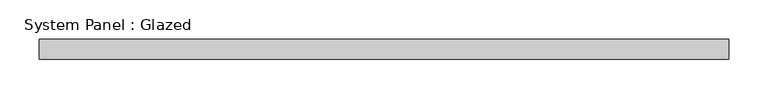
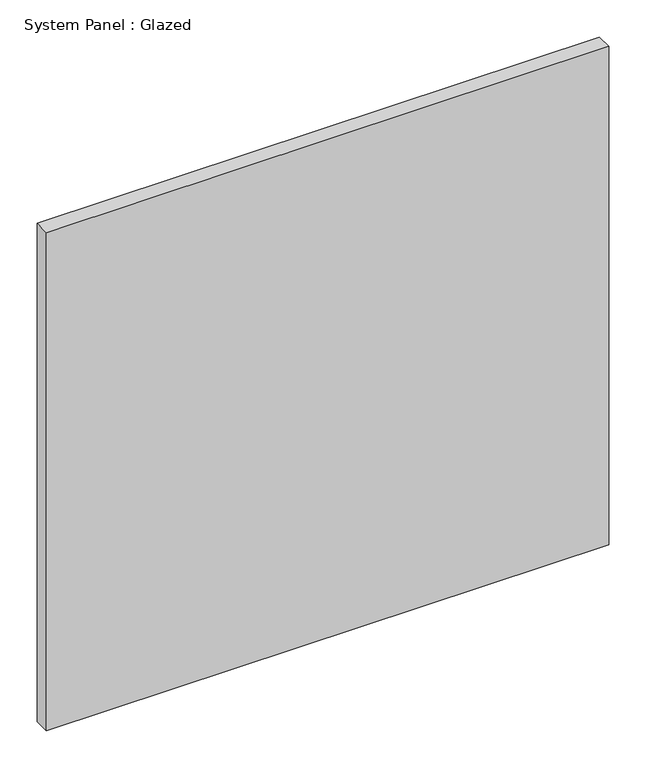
"""IFC4 building model written with IfcOpenShell, lengths in millimetres: plate geometry, System Panel : Glazed."""

from ifc_helpers import new_model, si_unit, origin, origin_with_axes, place, context, project, spatial, polyline, outline, extrude, source, transform, mapped, element, save


def system_panel_glazed_79de342d(model_context):
    return source(origin(), model_context, "Body", "SweptSolid", [
        extrude(outline(polyline([(437.5, 24.5), (-437.5, 24.5), (-437.5, 49.5), (437.5, 49.5), (437.5, 24.5)])), origin_with_axes(), (0.0, 0.0, 1.0), 820.0),
    ])


if __name__ == "__main__":
    model = new_model("IFC4")
    model_context = context("Model", 3, world=origin())
    ifc_project = project(units=[si_unit("LENGTHUNIT", "METRE", prefix="MILLI")], contexts=[model_context])
    site = spatial("IfcSite", under=ifc_project)
    building = spatial("IfcBuilding", under=site)
    placement = place(None, origin())
    system_panel_glazed_shape = system_panel_glazed_79de342d(model_context)
    element("IfcPlate", 1, ObjectType="System Panel : Glazed", at=placement, inside=building, context=model_context, shape_type="MappedRepresentation", body=[
        mapped(system_panel_glazed_shape, transform((0.0, 0.0, 0.0), x_axis=(1.0, 0.0, 0.0), y_axis=(0.0, 1.0, 0.0), z_axis=(0.0, 0.0, 1.0))),
    ])
    save(model, "model.ifc")
